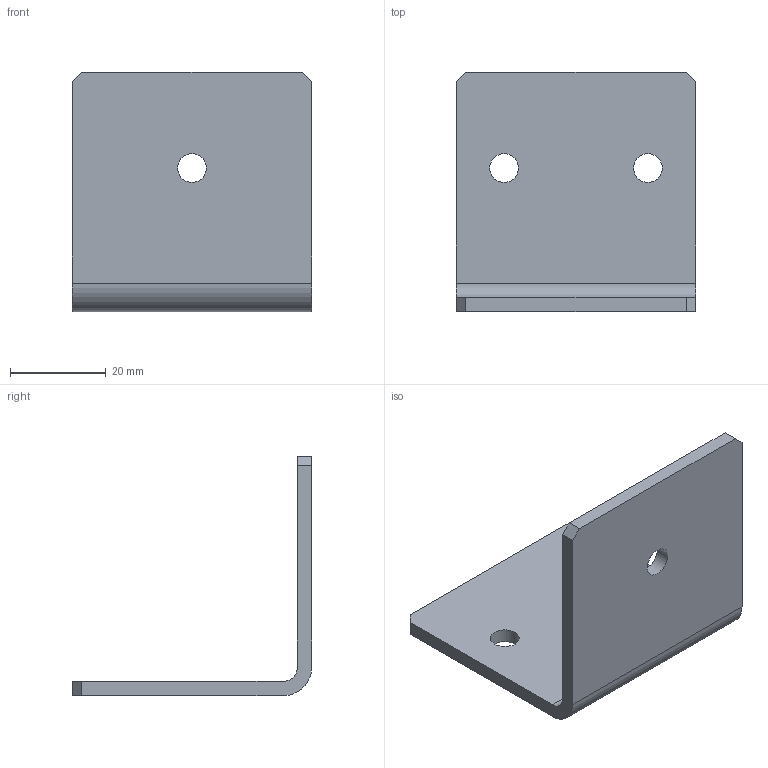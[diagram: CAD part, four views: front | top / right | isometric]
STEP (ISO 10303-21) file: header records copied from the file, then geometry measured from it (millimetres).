
FILE_DESCRIPTION(/* description */ (''),/* implementation_level */ '2;1');
FILE_NAME(/* name */ 'D:/特注品サイト/ブックオフ行ったことないです/ブラケット(L型).step',/* time_stamp */ '2020-11-06T11:48:02+09:00',/* author */ (''),/* organization */ (''),/* preprocessor_version */ 'ST-DEVELOPER v18.1',/* originating_system */ 'Autodesk Translation Framework v9.3.0.1241',/* authorisation */ '');
FILE_SCHEMA (('AUTOMOTIVE_DESIGN { 1 0 10303 214 3 1 1 }'));
Length unit declared in the file: millimetre
Products named in the file (1): ブラケット(L型)
Bounding box: 50 x 50 x 50 mm (x, y, z)
Volume: 13981.8 mm3; surface area: 10347.2 mm2
Topology: 1 solids, 1 shells, 17 faces, 45 edges, 30 vertices
Faces by surface type: plane 12, cylinder 5
Full cylindrical faces by diameter (mm): 6 x3
Entity records: 574 total; most frequent: CARTESIAN_POINT 93, DIRECTION 91, ORIENTED_EDGE 90, EDGE_CURVE 45, LINE 35, VECTOR 35, VERTEX_POINT 30, AXIS2_PLACEMENT_3D 28
